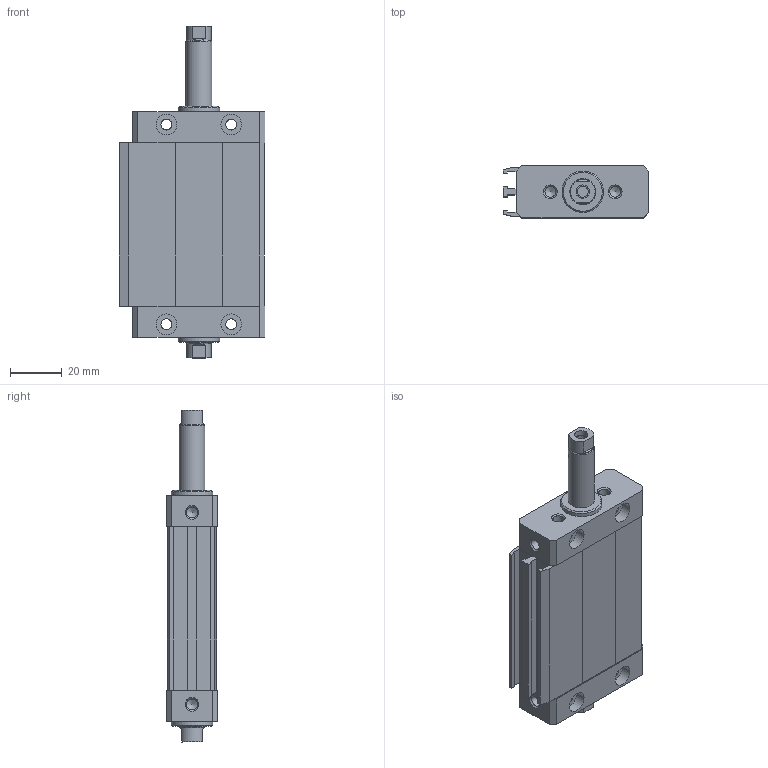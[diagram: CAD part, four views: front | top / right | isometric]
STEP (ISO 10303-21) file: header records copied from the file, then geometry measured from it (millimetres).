
FILE_DESCRIPTION((''),'2;1');
FILE_NAME('I:\Area Tecnica\Disegni\VARIE-3D\Componenti\1370 - CPO\1370_##_0000_03\1370_25_0025_03-01.iam.step','2010-12-16T10:52:36',(''),(''),'Autodesk Inventor 2011','Autodesk Inventor 2011','');
FILE_SCHEMA(('AUTOMOTIVE_DESIGN { 1 0 10303 214 1 1 1 1 }'));
Length unit declared in the file: millimetre
Products named in the file (5): 1370_25_0025_03-01; 1370_05_25_0000; 1370_06_25_0025; 1370_08_25_0000; 1370_3_25_0025
Assembly tree (4 placements, depth 2):
  1370_25_0025_03-01
    1370_05_25_0000
    1370_06_25_0025
    1370_08_25_0000
    1370_3_25_0025
Bounding box: 56.25 x 20 x 128 mm (x, y, z)
Volume: 72896.8 mm3; surface area: 36804 mm2
Topology: 4 solids, 4 shells, 158 faces, 378 edges, 238 vertices
Faces by surface type: plane 90, cylinder 48, cone 20
Full cylindrical faces by diameter (mm): 4.2 x22, 5.2 x2, 8 x8, 9.5 x2, 10 x4, 16 x2
Entity records: 4480 total; most frequent: DIRECTION 750, CARTESIAN_POINT 695, ORIENTED_EDGE 608, EDGE_CURVE 304, AXIS2_PLACEMENT_3D 279, EDGE_LOOP 250, VERTEX_POINT 224, VECTOR 192
